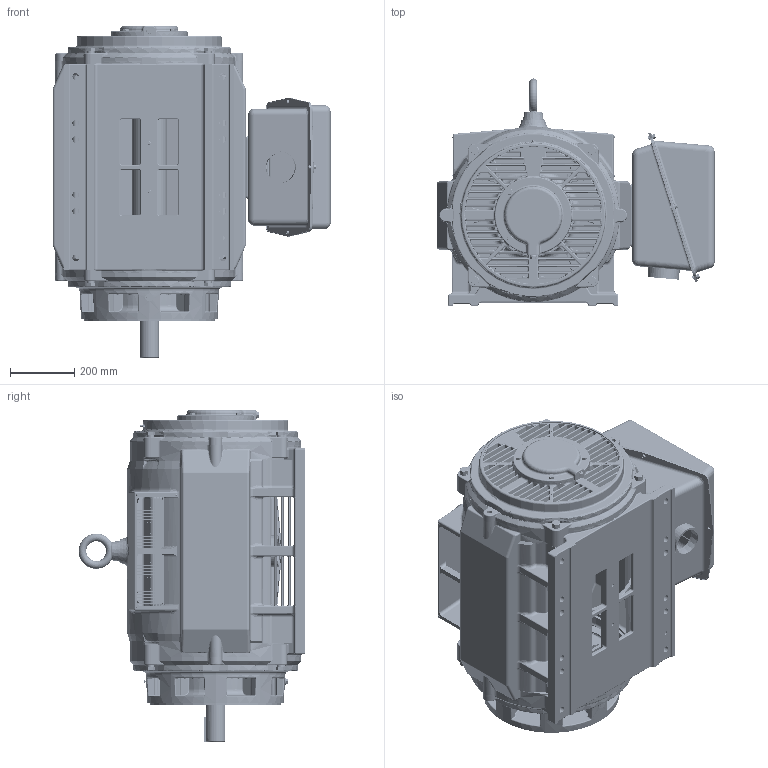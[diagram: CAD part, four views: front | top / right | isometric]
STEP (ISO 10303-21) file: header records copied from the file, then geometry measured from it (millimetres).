
FILE_DESCRIPTION (( 'STEP AP203' ), '1' );
FILE_NAME ('SS621127-100_RevA.STEP', '2022-02-10T07:09:34', ( '' ), ( '' ), 'SwSTEP 2.0', 'SolidWorks 2021', '' );
FILE_SCHEMA (( 'CONFIG_CONTROL_DESIGN' ));
Products named in the file (1): SS621127-100_RevA
Bounding box: 865.8 x 705.4 x 1032.2 mm (x, y, z)
Volume: 50640160.6 mm3; surface area: 7402804.4 mm2
Topology: 76 solids, 77 shells, 10428 faces, 28453 edges, 17843 vertices
Faces by surface type: cylinder 4256, plane 3356, bspline 1419, torus 907, cone 377, sphere 113
Entity records: 568034 total; most frequent: CARTESIAN_POINT 189369, ORIENTED_EDGE 81876, DIRECTION 77566, EDGE_CURVE 40938, AXIS2_PLACEMENT_3D 28040, VERTEX_POINT 26349, LINE 21486, VECTOR 21486
